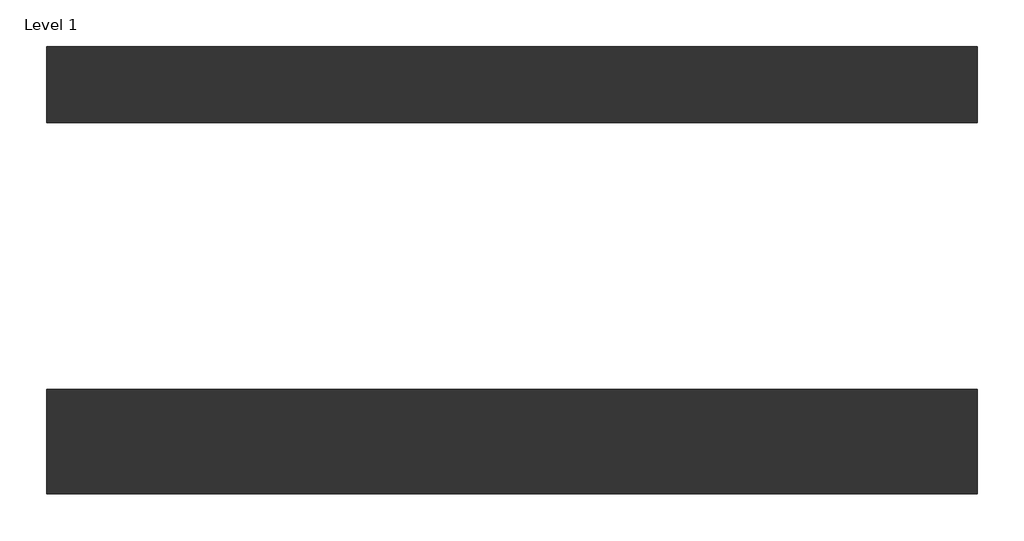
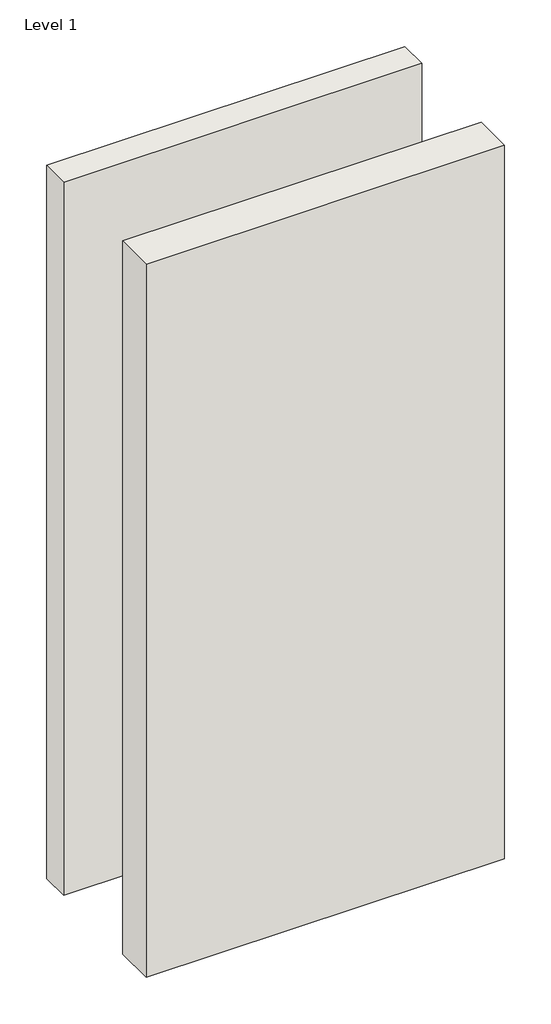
# One storey: 2 walls.
"""IFC4 building model written with IfcOpenShell, lengths in millimetres."""

from ifc_helpers import new_model, si_unit, origin, origin_with_axes, place, context, project, spatial, polyline, outline, extrude, element, save

model = new_model("IFC4")

# Units and contexts
model_context = context("Model", 3, world=origin())
ifc_project = project(units=[si_unit("LENGTHUNIT", "METRE", prefix="MILLI")], contexts=[model_context])

# Site, building, storey
site = spatial("IfcSite", under=ifc_project)
building = spatial("IfcBuilding", under=site)
storey = spatial("IfcBuildingStorey", under=building, Name="Level 1", Elevation=0.0)

# Walls
placement = place(None, origin())
element("IfcWall", 1, ObjectType="Interior-Steel Frame-Staggered Stud-CSR1290-156mm", at=placement, inside=storey, context=model_context, shape_type="SweptSolid", body=[
    extrude(outline(polyline([(-738.8287264, 633.3575346), (1161.1712736, 633.3575346), (1161.1712736, 477.3575346), (-738.8287264, 477.3575346), (-738.8287264, 633.3575346)])), origin_with_axes(), (0.0, 0.0, 1.0), 4000.0),
])
element("IfcWall", 2, ObjectType="Interior-Steel Frame-Staggered Stud-CSR1290-214mm", at=placement, inside=storey, context=model_context, shape_type="SweptSolid", body=[
    extrude(outline(polyline([(-738.8287264, -66.6424654), (1161.1712736, -66.6424654), (1161.1712736, -280.6424654), (-738.8287264, -280.6424654), (-738.8287264, -66.6424654)])), origin_with_axes(), (0.0, 0.0, 1.0), 4000.0),
])

save(model, "model.ifc")
